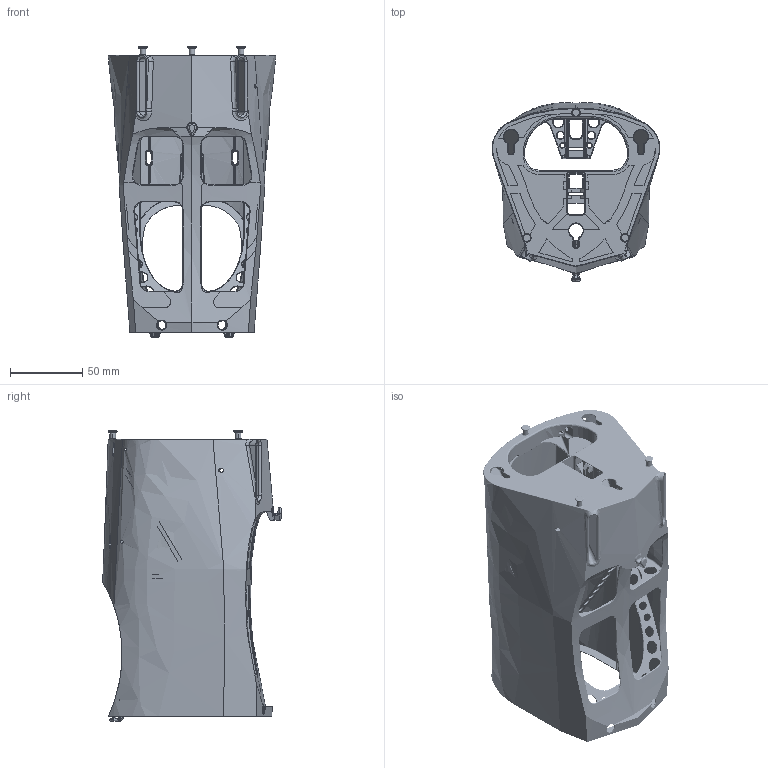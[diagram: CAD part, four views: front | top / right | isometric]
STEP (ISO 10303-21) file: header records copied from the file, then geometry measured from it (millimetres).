
FILE_DESCRIPTION (( 'STEP AP203' ), '1' );
FILE_NAME ('06-12-12-001.STEP', '2019-02-25T09:07:38', ( '' ), ( '' ), 'SwSTEP 2.0', 'SolidWorks 2014', '' );
FILE_SCHEMA (( 'CONFIG_CONTROL_DESIGN' ));
Products named in the file (1): 06-12-12-001
Bounding box: 116.32 x 123.82 x 201.4 mm (x, y, z)
Surface area: 193233.7 mm2 (no closed solid volume)
Topology: 0 solids, 1 shells, 2882 faces, 7440 edges, 4371 vertices
Faces by surface type: bspline 1588, cylinder 965, plane 329
Entity records: 194506 total; most frequent: CARTESIAN_POINT 136076, ORIENTED_EDGE 14583, DIRECTION 9076, EDGE_CURVE 7293, VERTEX_POINT 4366, AXIS2_PLACEMENT_3D 3636, EDGE_LOOP 3168, ADVANCED_FACE 2880
